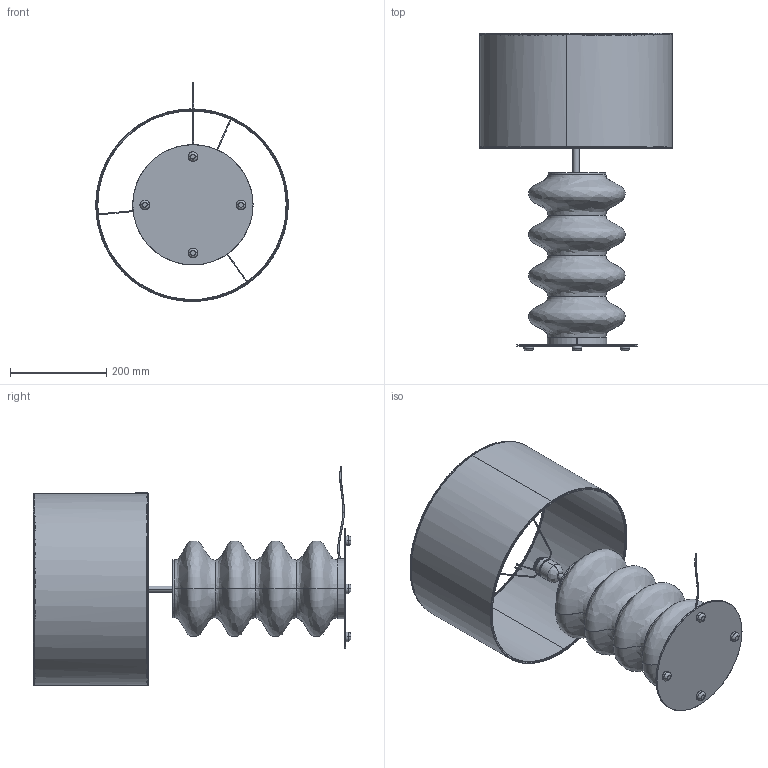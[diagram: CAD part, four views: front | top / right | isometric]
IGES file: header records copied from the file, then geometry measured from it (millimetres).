
Start section: SolidWorks IGES file using analytic representation for surfaces
Global section: file name: C:\Users\adrian\Desktop\Nueva Coleccion Septiembre 2026\VITREE\3D\VITREE_V2.IGS; native system: SolidWorks 2023; preprocessor: SolidWorks 2023; author: adrian; date: 260630.103747; units: millimetre
Bounding box: 399.97 x 660 x 454.7 mm (x, y, z)
Surface area: 1277325 mm2 (no closed solid volume)
Topology: 0 solids, 0 shells, 214 faces, 3941 edges, 3941 vertices
Faces by surface type: bspline 198, revolution 16
